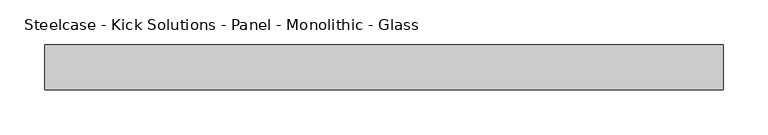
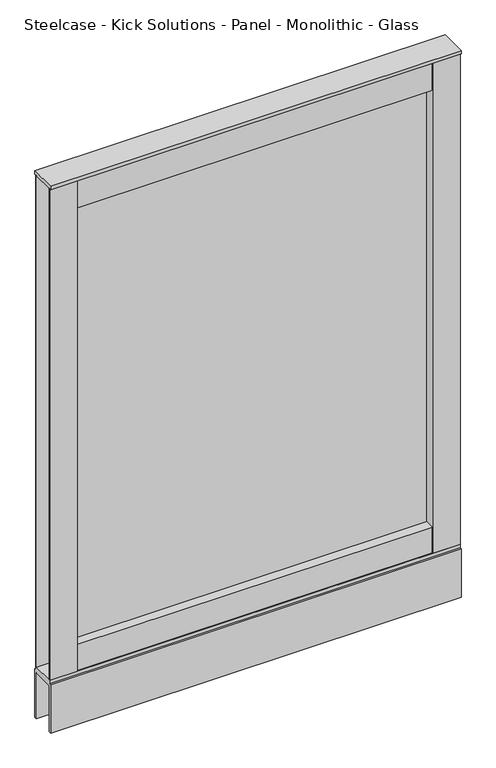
"""IFC4 building model written with IfcOpenShell, lengths in millimetres: furniture geometry, Steelcase - Kick Solutions - Panel - Monolithic - Glass : 42H x 30W."""

from ifc_helpers import new_model, si_unit, frame, origin, place, context, project, spatial, polyline, outline, extrude, source, transform, mapped, element, save


def steelcase_kick_solutions_panel_monolithic_glass_14c8cfd7(model_context):
    return source(origin(), model_context, "Body", "SweptSolid", [
        extrude(outline(polyline([(711.2006661, -5.08), (711.2006661, -45.7200015), (50.8006646, -45.7200015), (50.8006646, -5.08), (711.2006661, -5.08)])), frame((0.0, 0.0, 101.7169049), z_axis=(0.0, 0.0, 1.0), x_axis=(1.0, 0.0, 0.0)), (0.0, 0.0, 1.0), 50.6830951),
        extrude(outline(polyline([(711.2006661, -5.08), (711.2006661, -45.7200015), (50.8006646, -45.7200015), (50.8006646, -5.08), (711.2006661, -5.08)])), frame((0.0, 0.0, 1009.65), z_axis=(0.0, 0.0, 1.0), x_axis=(1.0, 0.0, 0.0)), (0.0, 0.0, 1.0), 57.15),
        extrude(outline(polyline([(50.8006646, -3.1743148), (50.8006646, -47.6243142), (0.0, -47.6243142), (0.0, -45.7200015), (47.7526646, -45.7200015), (47.7526646, -5.08), (0.0, -5.08), (0.0, -3.1743148), (50.8006646, -3.1743148)])), frame((0.0, 0.0, 101.7169049), z_axis=(0.0, 0.0, 1.0), x_axis=(1.0, 0.0, 0.0)), (0.0, 0.0, 1.0), 965.0830951),
        extrude(outline(polyline([(711.2006661, -3.1743148), (762.0, -3.1743148), (762.0, -5.08), (714.2486661, -5.08), (714.2486661, -45.7200015), (762.0, -45.7200015), (762.0, -47.6243142), (711.2006661, -47.6243142), (711.2006661, -3.1743148)])), frame((0.0, 0.0, 101.7169049), z_axis=(0.0, 0.0, 1.0), x_axis=(1.0, 0.0, 0.0)), (0.0, 0.0, 1.0), 965.0830951),
        extrude(outline(polyline([(711.2006661, -28.422537), (50.8006646, -28.422537), (50.8006646, -25.4), (711.2006661, -25.4), (711.2006661, -28.422537)])), frame((0.0, 0.0, 152.4), z_axis=(0.0, 0.0, 1.0), x_axis=(1.0, 0.0, 0.0)), (0.0, 0.0, 1.0), 857.25),
        extrude(outline(polyline([(762.0, 0.0), (762.0, -50.8000015), (0.0, -50.8000015), (0.0, 0.0), (762.0, 0.0)])), frame((0.0, 0.0, 1066.8), z_axis=(0.0, 0.0, 1.0), x_axis=(1.0, 0.0, 0.0)), (0.0, 0.0, 1.0), 6.35),
        extrude(outline(polyline([(0.0, 0.0), (-5.08, 0.0), (-5.08, 90.2869018), (-45.7200015, 90.2869018), (-45.7200015, 0.0), (-50.8000015, 0.0), (-50.8000015, 95.3669018), (-47.6243142, 95.3669018), (-47.6243142, 101.7169049), (-3.1743148, 101.7169049), (-3.1743148, 95.3669018), (0.0, 95.3669018), (0.0, 0.0)])), frame((0.0, 0.0, 0.0), z_axis=(1.0, 0.0, 0.0), x_axis=(0.0, 1.0, 0.0)), (0.0, 0.0, 1.0), 762.0),
    ])


if __name__ == "__main__":
    model = new_model("IFC4")
    model_context = context("Model", 3, world=origin())
    ifc_project = project(units=[si_unit("LENGTHUNIT", "METRE", prefix="MILLI")], contexts=[model_context])
    site = spatial("IfcSite", under=ifc_project)
    building = spatial("IfcBuilding", under=site)
    placement = place(None, origin())
    steelcase_kick_solutions_panel_monolithic_glass_shape = steelcase_kick_solutions_panel_monolithic_glass_14c8cfd7(model_context)
    element("IfcFurniture", 1, ObjectType="Steelcase - Kick Solutions - Panel - Monolithic - Glass : 42H x 30W", at=placement, inside=building, context=model_context, shape_type="MappedRepresentation", body=[
        mapped(steelcase_kick_solutions_panel_monolithic_glass_shape, transform((0.0, 0.0, 0.0), x_axis=(1.0, 0.0, 0.0), y_axis=(0.0, 1.0, 0.0), z_axis=(0.0, 0.0, 1.0))),
    ])
    save(model, "model.ifc")
